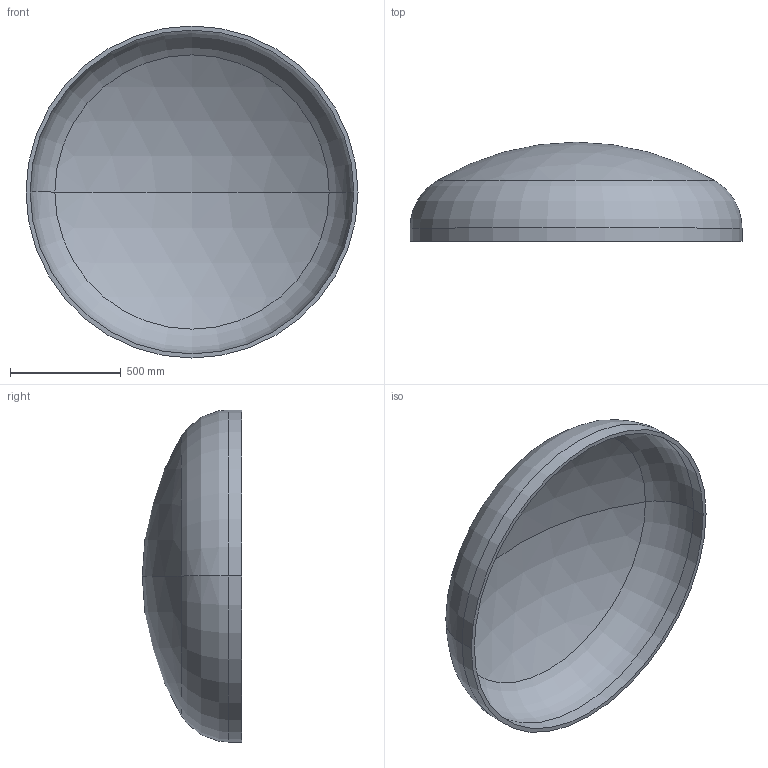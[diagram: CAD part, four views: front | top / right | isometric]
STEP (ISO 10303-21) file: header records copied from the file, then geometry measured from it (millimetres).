
FILE_DESCRIPTION (( 'STEP AP203' ), '1' );
FILE_NAME ('DIN 28013 Korbbogenform_-_Boden DIN 28013 - 1500 x 60 - I - s=19.step', '2016-07-01T10:38:22', ( '' ), ( '' ), 'SwSTEP 2.0', 'SolidWorks 2013', '' );
FILE_SCHEMA (( 'CONFIG_CONTROL_DESIGN' ));
Length unit declared in the file: millimetre
Products named in the file (1): DIN 28013 Korbbogenform_-_Boden DIN 28013 - 1500 x 60 - I - s=19
Bounding box: 1500 x 448.4 x 1500 mm (x, y, z)
Volume: 50994929.8 mm3; surface area: 5457042.8 mm2
Topology: 1 solids, 1 shells, 13 faces, 24 edges, 14 vertices
Faces by surface type: torus 4, cylinder 4, sphere 4, plane 1
Entity records: 407 total; most frequent: DIRECTION 72, CARTESIAN_POINT 52, ORIENTED_EDGE 48, AXIS2_PLACEMENT_3D 34, EDGE_CURVE 24, CIRCLE 20, EDGE_LOOP 14, VERTEX_POINT 14
